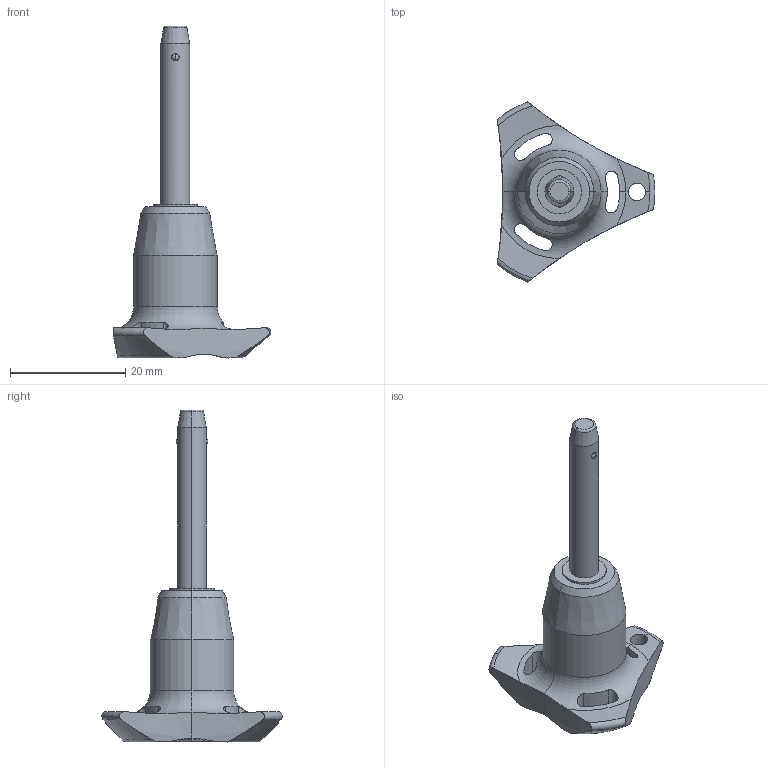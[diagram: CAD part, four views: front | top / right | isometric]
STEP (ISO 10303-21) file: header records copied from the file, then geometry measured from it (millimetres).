
FILE_DESCRIPTION (( 'STEP AP203' ), '1' );
FILE_NAME ('QR1734.M05-025-S.step', '2025-11-12T14:11:01', ( '' ), ( '' ), 'SwSTEP 2.0', 'SolidWorks 2019', '' );
FILE_SCHEMA (( 'CONFIG_CONTROL_DESIGN' ));
Length unit declared in the file: millimetre
Products named in the file (1): QR1734.M05-025-S
Bounding box: 27.4 x 31.31 x 57.7 mm (x, y, z)
Volume: 5358.9 mm3; surface area: 2901 mm2
Topology: 1 solids, 1 shells, 66 faces, 181 edges, 115 vertices
Faces by surface type: cylinder 30, cone 14, torus 12, sphere 6, plane 4
Entity records: 2693 total; most frequent: CARTESIAN_POINT 981, ORIENTED_EDGE 362, DIRECTION 332, EDGE_CURVE 181, AXIS2_PLACEMENT_3D 148, VERTEX_POINT 115, CIRCLE 81, EDGE_LOOP 72
